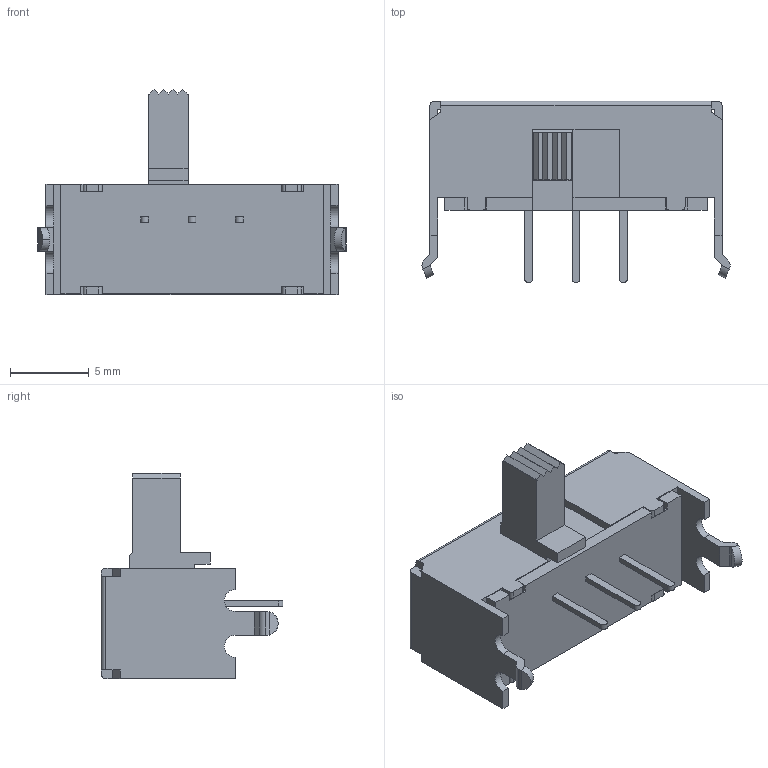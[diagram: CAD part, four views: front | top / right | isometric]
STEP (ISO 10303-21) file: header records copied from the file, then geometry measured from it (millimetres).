
FILE_DESCRIPTION (( 'STEP AP214' ), '1' );
FILE_NAME ('SSSU111400芨悺朄廋惓.STEP', '2014-11-06T06:40:03', ( 'user' ), ( 'Hewlett-Packard Company' ), 'SwSTEP 2.0', 'SolidWorks 2012', '' );
FILE_SCHEMA (( 'AUTOMOTIVE_DESIGN' ));
Length unit declared in the file: millimetre
Products named in the file (1): SSSU111400芨悺朄廋惓
Bounding box: 19.5 x 11.5 x 13 mm (x, y, z)
Volume: 941.8 mm3; surface area: 816.3 mm2
Topology: 1 solids, 1 shells, 147 faces, 426 edges, 280 vertices
Faces by surface type: plane 119, cylinder 28
Entity records: 6443 total; most frequent: CARTESIAN_POINT 854, ORIENTED_EDGE 852, DIRECTION 782, EDGE_CURVE 426, LINE 366, VECTOR 366, VERTEX_POINT 280, AXIS2_PLACEMENT_3D 208
